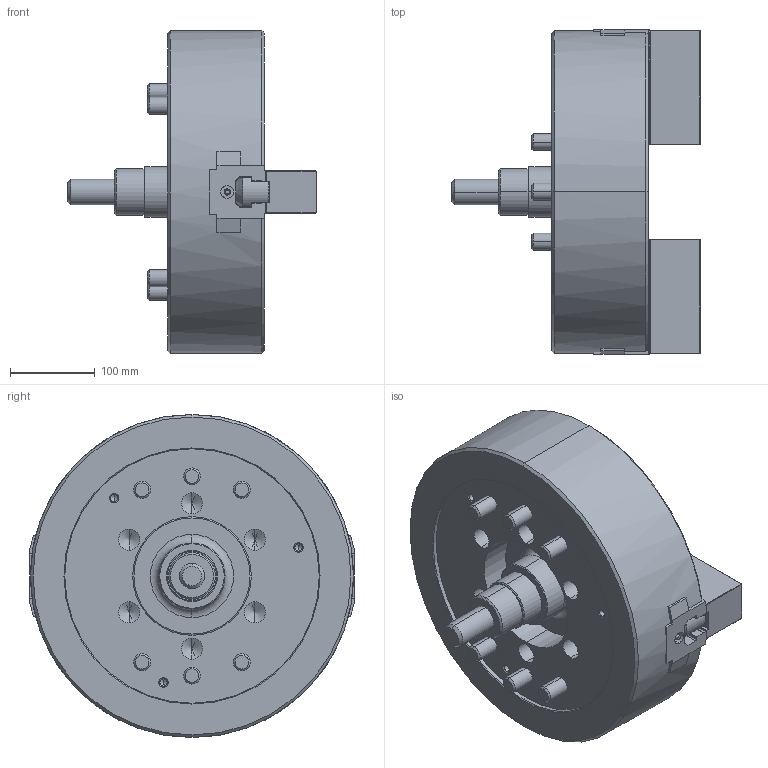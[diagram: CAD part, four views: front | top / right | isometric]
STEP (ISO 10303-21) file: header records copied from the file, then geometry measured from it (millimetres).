
FILE_DESCRIPTION (( 'STEP AP214' ), '1' );
FILE_NAME ('NT15_UC.STEP', '2019-12-19T06:45:32', ( '' ), ( '' ), 'SwSTEP 2.0', 'SolidWorks 2017', '' );
FILE_SCHEMA (( 'AUTOMOTIVE_DESIGN' ));
Length unit declared in the file: millimetre
Products named in the file (5): 61P801010_ソフトジョー; NT15_UC; 結合; 0030120055; 61P418536_俿僫僢僩
Assembly tree (11 placements, depth 2):
  NT15_UC
    61P801010_ソフトジョー  x2
    61P418536_俿僫僢僩  x4
    0030120055  x4
    結合
Bounding box: 293.2 x 383 x 381 mm (x, y, z)
Volume: 13000170.2 mm3; surface area: 642501.3 mm2
Topology: 11 solids, 11 shells, 2811 faces, 7916 edges, 5148 vertices
Faces by surface type: plane 2388, cylinder 192, cone 187, torus 44
Entity records: 66961 total; most frequent: CARTESIAN_POINT 13005, ORIENTED_EDGE 11624, DIRECTION 10391, EDGE_CURVE 5812, LINE 5129, VECTOR 5129, VERTEX_POINT 3797, AXIS2_PLACEMENT_3D 2631
